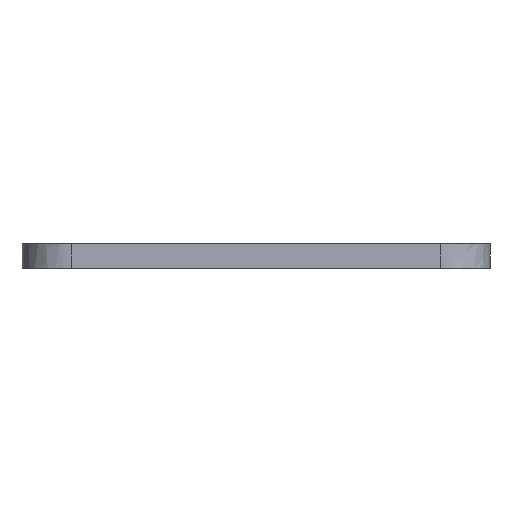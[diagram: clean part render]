
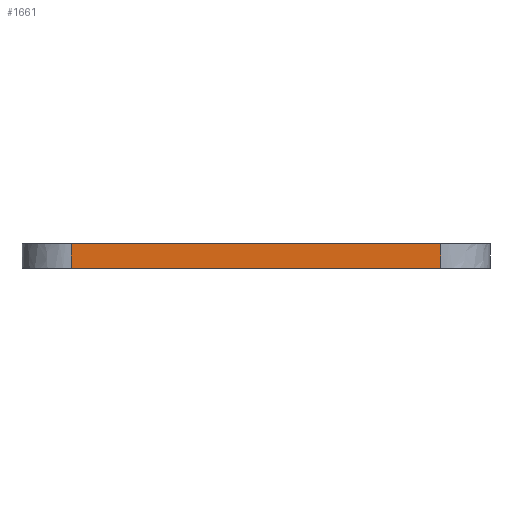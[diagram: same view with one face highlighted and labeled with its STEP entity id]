
A CAD part, front view. The second image highlights one B-rep face of the part: STEP entity #1661.
In plain terms, the highlighted planar face has unit normal (0, -1, 0).
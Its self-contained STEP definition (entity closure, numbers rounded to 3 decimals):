
#78 = EDGE_LOOP ( 'NONE', ( #586, #614, #613, #590 ) ) ;
#168 = B_SPLINE_CURVE_WITH_KNOTS ( 'NONE', 3,
 ( #1454, #1440, #1439, #1438 ),
 .UNSPECIFIED., .F., .F.,
 ( 4, 4 ),
 ( 0., 1. ),
 .UNSPECIFIED. ) ;
#243 = EDGE_CURVE ( 'NONE', #1617, #1615, #168, .T. ) ;
#251 = EDGE_CURVE ( 'NONE', #1618, #1620, #769, .T. ) ;
#256 = EDGE_CURVE ( 'NONE', #1620, #1617, #763, .T. ) ;
#301 = AXIS2_PLACEMENT_3D ( 'NONE', #398, #358, #357 ) ;
#303 = EDGE_CURVE ( 'NONE', #1618, #1615, #732, .T. ) ;
#357 = DIRECTION ( 'NONE',  ( 0., 0., 1. ) ) ;
#358 = DIRECTION ( 'NONE',  ( 0., 1., 0. ) ) ;
#398 = CARTESIAN_POINT ( 'NONE',  ( -45., -79., -6. ) ) ;
#400 = PLANE ( 'NONE',  #301 ) ;
#586 = ORIENTED_EDGE ( 'NONE', *, *, #243, .F. ) ;
#590 = ORIENTED_EDGE ( 'NONE', *, *, #303, .T. ) ;
#613 = ORIENTED_EDGE ( 'NONE', *, *, #251, .F. ) ;
#614 = ORIENTED_EDGE ( 'NONE', *, *, #256, .F. ) ;
#654 = FACE_OUTER_BOUND ( 'NONE', #78, .T. ) ;
#728 = VECTOR ( 'NONE', #1262, 1000. ) ;
#732 = LINE ( 'NONE', #1275, #728 ) ;
#752 = VECTOR ( 'NONE', #1317, 1000. ) ;
#763 = LINE ( 'NONE', #1321, #752 ) ;
#764 = VECTOR ( 'NONE', #1328, 1000. ) ;
#769 = LINE ( 'NONE', #1329, #764 ) ;
#1099 = CARTESIAN_POINT ( 'NONE',  ( 45., -79., -6. ) ) ;
#1101 = CARTESIAN_POINT ( 'NONE',  ( 45., -79., 0. ) ) ;
#1102 = CARTESIAN_POINT ( 'NONE',  ( -45., -79., -6. ) ) ;
#1104 = CARTESIAN_POINT ( 'NONE',  ( -45., -79., 0. ) ) ;
#1262 = DIRECTION ( 'NONE',  ( -1., 0., 0. ) ) ;
#1275 = CARTESIAN_POINT ( 'NONE',  ( -45., -79., 0. ) ) ;
#1317 = DIRECTION ( 'NONE',  ( -1., 0., 0. ) ) ;
#1321 = CARTESIAN_POINT ( 'NONE',  ( -57., -79., -6. ) ) ;
#1328 = DIRECTION ( 'NONE',  ( 0., 0., -1. ) ) ;
#1329 = CARTESIAN_POINT ( 'NONE',  ( 45., -79., -6. ) ) ;
#1438 = CARTESIAN_POINT ( 'NONE',  ( -45., -79., 0. ) ) ;
#1439 = CARTESIAN_POINT ( 'NONE',  ( -45., -79., -2. ) ) ;
#1440 = CARTESIAN_POINT ( 'NONE',  ( -45., -79., -4. ) ) ;
#1454 = CARTESIAN_POINT ( 'NONE',  ( -45., -79., -6. ) ) ;
#1615 = VERTEX_POINT ( 'NONE', #1104 ) ;
#1617 = VERTEX_POINT ( 'NONE', #1102 ) ;
#1618 = VERTEX_POINT ( 'NONE', #1101 ) ;
#1620 = VERTEX_POINT ( 'NONE', #1099 ) ;
#1661 = ADVANCED_FACE ( 'NONE', ( #654 ), #400, .F. ) ;
